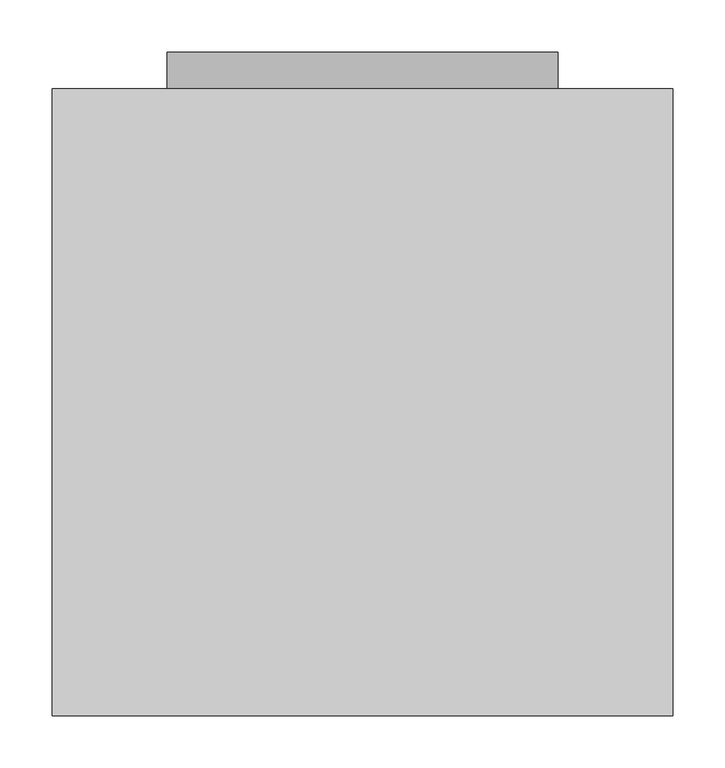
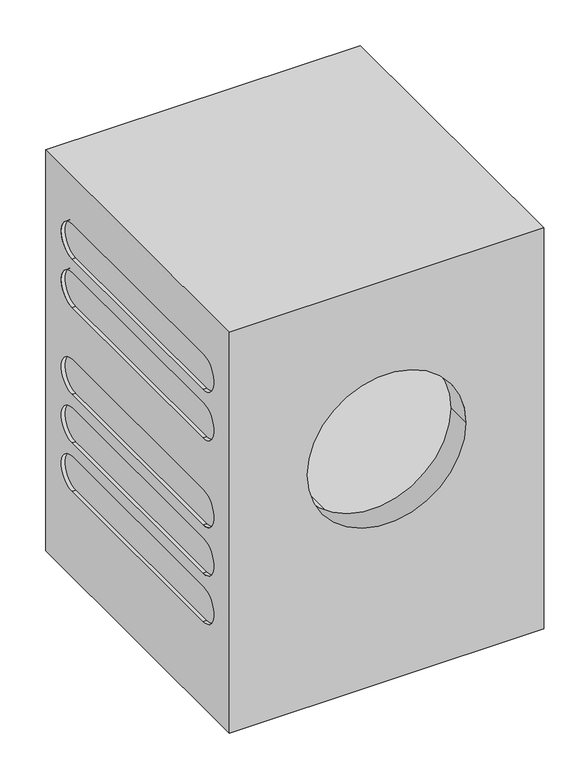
"""IFC4 building model written with IfcOpenShell, lengths in millimetres: proxy geometry, 11736020_S_PWM508DV_LW : 51508252_S_11736020_PWM508DV_LW."""

from ifc_helpers import new_model, si_unit, point, frame, frame_2d, origin, place, context, project, spatial, polyline, circle_curve, trimmed, segment, composite_curve, outline, extrude, source, transform, mapped, element, save
from ifc_brep_helpers import plane_surface, revolved_surface, advanced_brep


def specialty_equipment_96a83835(model_context):
    return source(origin(), model_context, "Body", "SolidModel", [
        advanced_brep(
        [(298.0, -35.0, 816.0), (298.0, -35.0, 13.5), (-298.0, -35.0, 13.5), (-298.0, -35.0, 816.0), (215.0, -35.0, 130.0), (119.0, -35.0, 130.0), (119.0, -35.0, 80.0), (215.0, -35.0, 80.0), (298.0, -637.0, 816.0), (-298.0, -637.0, 816.0), (-298.0, -637.0, 13.5), (298.0, -637.0, 13.5), (150.0, -637.0, 478.0), (-150.0, -637.0, 478.0), (298.0, -552.0, 650.0), (298.0, -552.0, 720.0), (298.0, -122.0, 720.0), (298.0, -122.0, 650.0), (298.0, -552.0, 553.0), (298.0, -552.0, 623.0), (298.0, -122.0, 623.0), (298.0, -122.0, 553.0), (298.0, -552.0, 282.0), (298.0, -552.0, 352.0), (298.0, -122.0, 352.0), (298.0, -122.0, 282.0), (298.0, -552.0, 185.0), (298.0, -552.0, 255.0), (298.0, -122.0, 255.0), (298.0, -122.0, 185.0), (298.0, -552.0, 379.0), (298.0, -552.0, 449.0), (298.0, -122.0, 449.0), (298.0, -122.0, 379.0), (-298.0, -552.0, 720.0), (-298.0, -552.0, 650.0), (-298.0, -122.0, 650.0), (-298.0, -122.0, 720.0), (-298.0, -552.0, 623.0), (-298.0, -552.0, 553.0), (-298.0, -122.0, 553.0), (-298.0, -122.0, 623.0), (-298.0, -552.0, 352.0), (-298.0, -552.0, 282.0), (-298.0, -122.0, 282.0), (-298.0, -122.0, 352.0), (-298.0, -552.0, 255.0), (-298.0, -552.0, 185.0), (-298.0, -122.0, 185.0), (-298.0, -122.0, 255.0), (-298.0, -552.0, 379.0), (-298.0, -122.0, 379.0), (-298.0, -122.0, 449.0), (-298.0, -552.0, 449.0), (-150.0, -589.0, 478.0), (150.0, -589.0, 478.0), (0.0, -150.0, 234.0), (0.0, -150.0, 722.0), (0.0, -589.0, 234.0), (0.0, -589.0, 722.0), (-291.0, -552.0, 720.0), (-291.0, -122.0, 720.0), (-291.0, -122.0, 650.0), (-291.0, -552.0, 650.0), (-291.0, -552.0, 623.0), (-291.0, -122.0, 623.0), (-291.0, -122.0, 553.0), (-291.0, -552.0, 553.0), (-291.0, -552.0, 352.0), (-291.0, -122.0, 352.0), (-291.0, -122.0, 282.0), (-291.0, -552.0, 282.0), (-291.0, -552.0, 255.0), (-291.0, -122.0, 255.0), (-291.0, -122.0, 185.0), (-291.0, -552.0, 185.0), (291.0, -552.0, 720.0), (291.0, -552.0, 650.0), (291.0, -122.0, 650.0), (291.0, -122.0, 720.0), (291.0, -552.0, 623.0), (291.0, -552.0, 553.0), (291.0, -122.0, 553.0), (291.0, -122.0, 623.0), (291.0, -552.0, 352.0), (291.0, -552.0, 282.0), (291.0, -122.0, 282.0), (291.0, -122.0, 352.0), (291.0, -552.0, 255.0), (291.0, -552.0, 185.0), (291.0, -122.0, 185.0), (291.0, -122.0, 255.0), (-291.0, -552.0, 449.0), (-291.0, -122.0, 449.0), (-291.0, -122.0, 379.0), (-291.0, -552.0, 379.0), (291.0, -552.0, 449.0), (291.0, -552.0, 379.0), (291.0, -122.0, 379.0), (291.0, -122.0, 449.0), (119.0, -152.0, 130.0), (215.0, -152.0, 130.0), (215.0, -152.0, 80.0), (119.0, -152.0, 80.0)],
        [
            (0, 1),
            (1, 2),
            (2, 3),
            (3, 0),
            (4, 5),
            (5, 6),
            (6, 7),
            (7, 4),
            (8, 9),
            (9, 10),
            (10, 11),
            (11, 8),
            (12, 13, circle_curve(frame((0.0, -637.0, 478.0), z_axis=(0.0, 1.0, 0.0), x_axis=(-1.0, 0.0, 0.0)), 150.0)),
            (13, 12, circle_curve(frame((0.0, -637.0, 478.0), z_axis=(0.0, 1.0, 0.0), x_axis=(-1.0, 0.0, 0.0)), 150.0)),
            (0, 8),
            (11, 1),
            (14, 15, circle_curve(frame((298.0, -552.0, 685.0), z_axis=(-1.0, 0.0, 0.0), x_axis=(0.0, 1.0, 0.0)), 35.0)),
            (15, 16),
            (16, 17, circle_curve(frame((298.0, -122.0, 685.0), z_axis=(-1.0, 0.0, 0.0), x_axis=(0.0, 1.0, 0.0)), 35.0)),
            (17, 14),
            (18, 19, circle_curve(frame((298.0, -552.0, 588.0), z_axis=(-1.0, 0.0, 0.0), x_axis=(0.0, 1.0, 0.0)), 35.0)),
            (19, 20),
            (20, 21, circle_curve(frame((298.0, -122.0, 588.0), z_axis=(-1.0, 0.0, 0.0), x_axis=(0.0, 1.0, 0.0)), 35.0)),
            (21, 18),
            (22, 23, circle_curve(frame((298.0, -552.0, 317.0), z_axis=(-1.0, 0.0, 0.0), x_axis=(0.0, 1.0, 0.0)), 35.0)),
            (23, 24),
            (24, 25, circle_curve(frame((298.0, -122.0, 317.0), z_axis=(-1.0, 0.0, 0.0), x_axis=(0.0, 1.0, 0.0)), 35.0)),
            (25, 22),
            (26, 27, circle_curve(frame((298.0, -552.0, 220.0), z_axis=(-1.0, 0.0, 0.0), x_axis=(0.0, 1.0, 0.0)), 35.0)),
            (27, 28),
            (28, 29, circle_curve(frame((298.0, -122.0, 220.0), z_axis=(-1.0, 0.0, 0.0), x_axis=(0.0, 1.0, 0.0)), 35.0)),
            (29, 26),
            (30, 31, circle_curve(frame((298.0, -552.0, 414.0), z_axis=(-1.0, 0.0, 0.0), x_axis=(0.0, 1.0, 0.0)), 35.0)),
            (31, 32),
            (32, 33, circle_curve(frame((298.0, -122.0, 414.0), z_axis=(-1.0, 0.0, 0.0), x_axis=(0.0, 1.0, 0.0)), 35.0)),
            (33, 30),
            (10, 2),
            (9, 3),
            (34, 35, circle_curve(frame((-298.0, -552.0, 685.0), z_axis=(1.0, 0.0, 0.0), x_axis=(0.0, 1.0, 0.0)), 35.0)),
            (35, 36),
            (36, 37, circle_curve(frame((-298.0, -122.0, 685.0), z_axis=(1.0, 0.0, 0.0), x_axis=(0.0, 1.0, 0.0)), 35.0)),
            (37, 34),
            (38, 39, circle_curve(frame((-298.0, -552.0, 588.0), z_axis=(1.0, 0.0, 0.0), x_axis=(0.0, 1.0, 0.0)), 35.0)),
            (39, 40),
            (40, 41, circle_curve(frame((-298.0, -122.0, 588.0), z_axis=(1.0, 0.0, 0.0), x_axis=(0.0, 1.0, 0.0)), 35.0)),
            (41, 38),
            (42, 43, circle_curve(frame((-298.0, -552.0, 317.0), z_axis=(1.0, 0.0, 0.0), x_axis=(0.0, 1.0, 0.0)), 35.0)),
            (43, 44),
            (44, 45, circle_curve(frame((-298.0, -122.0, 317.0), z_axis=(1.0, 0.0, 0.0), x_axis=(0.0, 1.0, 0.0)), 35.0)),
            (45, 42),
            (46, 47, circle_curve(frame((-298.0, -552.0, 220.0), z_axis=(1.0, 0.0, 0.0), x_axis=(0.0, 1.0, 0.0)), 35.0)),
            (47, 48),
            (48, 49, circle_curve(frame((-298.0, -122.0, 220.0), z_axis=(1.0, 0.0, 0.0), x_axis=(0.0, 1.0, 0.0)), 35.0)),
            (49, 46),
            (50, 51),
            (51, 52, circle_curve(frame((-298.0, -122.0, 414.0), z_axis=(1.0, 0.0, 0.0), x_axis=(0.0, 1.0, 0.0)), 35.0)),
            (52, 53),
            (53, 50, circle_curve(frame((-298.0, -552.0, 414.0), z_axis=(1.0, 0.0, 0.0), x_axis=(0.0, 1.0, 0.0)), 35.0)),
            (54, 13),
            (12, 55),
            (55, 54, circle_curve(frame((0.0, -589.0, 478.0), z_axis=(0.0, 1.0, 0.0), x_axis=(-1.0, 0.0, 0.0)), 150.0)),
            (54, 55, circle_curve(frame((0.0, -589.0, 478.0), z_axis=(0.0, 1.0, 0.0), x_axis=(-1.0, 0.0, 0.0)), 150.0)),
            (56, 57, circle_curve(frame((0.0, -150.0, 478.0), z_axis=(0.0, -1.0, 0.0), x_axis=(0.0, 0.0, 1.0)), 244.0)),
            (57, 56, circle_curve(frame((0.0, -150.0, 478.0), z_axis=(0.0, -1.0, 0.0), x_axis=(0.0, 0.0, 1.0)), 244.0)),
            (58, 59, circle_curve(frame((0.0, -589.0, 478.0), z_axis=(0.0, 1.0, 0.0), x_axis=(0.0, 0.0, 1.0)), 244.0)),
            (59, 58, circle_curve(frame((0.0, -589.0, 478.0), z_axis=(0.0, 1.0, 0.0), x_axis=(0.0, 0.0, 1.0)), 244.0)),
            (56, 58),
            (59, 57),
            (60, 61),
            (61, 62, circle_curve(frame((-291.0, -122.0, 685.0), z_axis=(-1.0, 0.0, 0.0), x_axis=(0.0, 1.0, 0.0)), 35.0)),
            (62, 63),
            (63, 60, circle_curve(frame((-291.0, -552.0, 685.0), z_axis=(-1.0, 0.0, 0.0), x_axis=(0.0, 1.0, 0.0)), 35.0)),
            (64, 65),
            (65, 66, circle_curve(frame((-291.0, -122.0, 588.0), z_axis=(-1.0, 0.0, 0.0), x_axis=(0.0, 1.0, 0.0)), 35.0)),
            (66, 67),
            (67, 64, circle_curve(frame((-291.0, -552.0, 588.0), z_axis=(-1.0, 0.0, 0.0), x_axis=(0.0, 1.0, 0.0)), 35.0)),
            (68, 69),
            (69, 70, circle_curve(frame((-291.0, -122.0, 317.0), z_axis=(-1.0, 0.0, 0.0), x_axis=(0.0, 1.0, 0.0)), 35.0)),
            (70, 71),
            (71, 68, circle_curve(frame((-291.0, -552.0, 317.0), z_axis=(-1.0, 0.0, 0.0), x_axis=(0.0, 1.0, 0.0)), 35.0)),
            (72, 73),
            (73, 74, circle_curve(frame((-291.0, -122.0, 220.0), z_axis=(-1.0, 0.0, 0.0), x_axis=(0.0, 1.0, 0.0)), 35.0)),
            (74, 75),
            (75, 72, circle_curve(frame((-291.0, -552.0, 220.0), z_axis=(-1.0, 0.0, 0.0), x_axis=(0.0, 1.0, 0.0)), 35.0)),
            (63, 35),
            (34, 60),
            (62, 36),
            (61, 37),
            (67, 39),
            (38, 64),
            (66, 40),
            (65, 41),
            (71, 43),
            (42, 68),
            (70, 44),
            (69, 45),
            (75, 47),
            (46, 72),
            (74, 48),
            (73, 49),
            (76, 77, circle_curve(frame((291.0, -552.0, 685.0), z_axis=(1.0, 0.0, 0.0), x_axis=(0.0, 1.0, 0.0)), 35.0)),
            (77, 78),
            (78, 79, circle_curve(frame((291.0, -122.0, 685.0), z_axis=(1.0, 0.0, 0.0), x_axis=(0.0, 1.0, 0.0)), 35.0)),
            (79, 76),
            (80, 81, circle_curve(frame((291.0, -552.0, 588.0), z_axis=(1.0, 0.0, 0.0), x_axis=(0.0, 1.0, 0.0)), 35.0)),
            (81, 82),
            (82, 83, circle_curve(frame((291.0, -122.0, 588.0), z_axis=(1.0, 0.0, 0.0), x_axis=(0.0, 1.0, 0.0)), 35.0)),
            (83, 80),
            (84, 85, circle_curve(frame((291.0, -552.0, 317.0), z_axis=(1.0, 0.0, 0.0), x_axis=(0.0, 1.0, 0.0)), 35.0)),
            (85, 86),
            (86, 87, circle_curve(frame((291.0, -122.0, 317.0), z_axis=(1.0, 0.0, 0.0), x_axis=(0.0, 1.0, 0.0)), 35.0)),
            (87, 84),
            (88, 89, circle_curve(frame((291.0, -552.0, 220.0), z_axis=(1.0, 0.0, 0.0), x_axis=(0.0, 1.0, 0.0)), 35.0)),
            (89, 90),
            (90, 91, circle_curve(frame((291.0, -122.0, 220.0), z_axis=(1.0, 0.0, 0.0), x_axis=(0.0, 1.0, 0.0)), 35.0)),
            (91, 88),
            (76, 15),
            (14, 77),
            (17, 78),
            (16, 79),
            (80, 19),
            (18, 81),
            (21, 82),
            (20, 83),
            (84, 23),
            (22, 85),
            (25, 86),
            (24, 87),
            (88, 27),
            (26, 89),
            (29, 90),
            (28, 91),
            (92, 93),
            (93, 94, circle_curve(frame((-291.0, -122.0, 414.0), z_axis=(-1.0, 0.0, 0.0), x_axis=(0.0, 1.0, 0.0)), 35.0)),
            (94, 95),
            (95, 92, circle_curve(frame((-291.0, -552.0, 414.0), z_axis=(-1.0, 0.0, 0.0), x_axis=(0.0, 1.0, 0.0)), 35.0)),
            (94, 51),
            (50, 95),
            (92, 53),
            (52, 93),
            (96, 97, circle_curve(frame((291.0, -552.0, 414.0), z_axis=(1.0, 0.0, 0.0), x_axis=(0.0, 1.0, 0.0)), 35.0)),
            (97, 98),
            (98, 99, circle_curve(frame((291.0, -122.0, 414.0), z_axis=(1.0, 0.0, 0.0), x_axis=(0.0, 1.0, 0.0)), 35.0)),
            (99, 96),
            (96, 31),
            (30, 97),
            (33, 98),
            (32, 99),
            (100, 101),
            (101, 102),
            (102, 103),
            (103, 100),
            (100, 5),
            (4, 101),
            (7, 102),
            (6, 103),
        ],
        [
            plane_surface(frame((298.0, -35.0, 816.0), z_axis=(0.0, 1.0, 0.0), x_axis=(0.0, 0.0, -1.0))),
            plane_surface(frame((298.0, -637.0, 816.0), z_axis=(0.0, -1.0, 0.0), x_axis=(0.0, 0.0, 1.0))),
            plane_surface(frame((298.0, -35.0, 816.0), z_axis=(1.0, 0.0, 0.0), x_axis=(0.0, -1.0, 0.0))),
            plane_surface(frame((298.0, -35.0, 13.5), z_axis=(0.0, 0.0, -1.0), x_axis=(0.0, -1.0, 0.0))),
            plane_surface(frame((-298.0, -35.0, 13.5), z_axis=(-1.0, 0.0, 0.0), x_axis=(0.0, -1.0, 0.0))),
            plane_surface(frame((-298.0, -35.0, 816.0), z_axis=(0.0, 0.0, 1.0), x_axis=(0.0, -1.0, 0.0))),
            revolved_surface(polyline([(-150.0, -589.0, 478.0), (-150.0, -637.0, 478.0)]), (0.0, -637.0, 478.0), (0.0, 1.0, 0.0)),
            plane_surface(frame((0.0, -150.0, 722.0), z_axis=(0.0, -1.0, 0.0), x_axis=(1.0, 0.0, 0.0))),
            plane_surface(frame((0.0, -589.0, 722.0), z_axis=(0.0, 1.0, 0.0), x_axis=(-1.0, 0.0, 0.0))),
            revolved_surface(polyline([(0.0, -589.0, 722.0), (0.0, -150.0, 722.0)]), (0.0, -150.0, 478.0), (0.0, -1.0, 0.0)),
            plane_surface(frame((-291.0, -517.0, 685.0), z_axis=(-1.0, 0.0, 0.0), x_axis=(0.0, 0.0, 1.0))),
            revolved_surface(polyline([(-291.0, -517.0, 685.0), (-298.0, -517.0, 685.0)]), (-298.0, -552.0, 685.0), (1.0, 0.0, 0.0)),
            plane_surface(frame((-291.0, -552.0, 650.0), z_axis=(0.0, 0.0, 1.0), x_axis=(-1.0, 0.0, 0.0))),
            revolved_surface(polyline([(-291.0, -87.0, 685.0), (-298.0, -87.0, 685.0)]), (-298.0, -122.0, 685.0), (1.0, 0.0, 0.0)),
            plane_surface(frame((-291.0, -122.0, 720.0), z_axis=(0.0, 0.0, -1.0), x_axis=(-1.0, 0.0, 0.0))),
            revolved_surface(polyline([(-291.0, -517.0, 588.0), (-298.0, -517.0, 588.0)]), (-298.0, -552.0, 588.0), (1.0, 0.0, 0.0)),
            plane_surface(frame((-291.0, -552.0, 553.0), z_axis=(0.0, 0.0, 1.0), x_axis=(-1.0, 0.0, 0.0))),
            revolved_surface(polyline([(-291.0, -87.0, 588.0), (-298.0, -87.0, 588.0)]), (-298.0, -122.0, 588.0), (1.0, 0.0, 0.0)),
            plane_surface(frame((-291.0, -122.0, 623.0), z_axis=(0.0, 0.0, -1.0), x_axis=(-1.0, 0.0, 0.0))),
            revolved_surface(polyline([(-291.0, -517.0, 317.0), (-298.0, -517.0, 317.0)]), (-298.0, -552.0, 317.0), (1.0, 0.0, 0.0)),
            plane_surface(frame((-291.0, -552.0, 282.0), z_axis=(0.0, 0.0, 1.0), x_axis=(-1.0, 0.0, 0.0))),
            revolved_surface(polyline([(-291.0, -87.0, 317.0), (-298.0, -87.0, 317.0)]), (-298.0, -122.0, 317.0), (1.0, 0.0, 0.0)),
            plane_surface(frame((-291.0, -122.0, 352.0), z_axis=(0.0, 0.0, -1.0), x_axis=(-1.0, 0.0, 0.0))),
            revolved_surface(polyline([(-291.0, -517.0, 220.0), (-298.0, -517.0, 220.0)]), (-298.0, -552.0, 220.0), (1.0, 0.0, 0.0)),
            plane_surface(frame((-291.0, -552.0, 185.0), z_axis=(0.0, 0.0, 1.0), x_axis=(-1.0, 0.0, 0.0))),
            revolved_surface(polyline([(-291.0, -87.0, 220.0), (-298.0, -87.0, 220.0)]), (-298.0, -122.0, 220.0), (1.0, 0.0, 0.0)),
            plane_surface(frame((-291.0, -122.0, 255.0), z_axis=(0.0, 0.0, -1.0), x_axis=(-1.0, 0.0, 0.0))),
            plane_surface(frame((291.0, -517.0, 685.0), z_axis=(1.0, 0.0, 0.0), x_axis=(0.0, 0.0, -1.0))),
            revolved_surface(polyline([(298.0, -517.0, 685.0), (291.0, -517.0, 685.0)]), (291.0, -552.0, 685.0), (1.0, 0.0, 0.0)),
            plane_surface(frame((298.0, -552.0, 650.0), z_axis=(0.0, 0.0, 1.0), x_axis=(-1.0, 0.0, 0.0))),
            revolved_surface(polyline([(298.0, -87.0, 685.0), (291.0, -87.0, 685.0)]), (291.0, -122.0, 685.0), (1.0, 0.0, 0.0)),
            plane_surface(frame((298.0, -122.0, 720.0), z_axis=(0.0, 0.0, -1.0), x_axis=(-1.0, 0.0, 0.0))),
            revolved_surface(polyline([(298.0, -517.0, 588.0), (291.0, -517.0, 588.0)]), (298.0, -552.0, 588.0), (1.0, 0.0, 0.0)),
            plane_surface(frame((298.0, -552.0, 553.0), z_axis=(0.0, 0.0, 1.0), x_axis=(-1.0, 0.0, 0.0))),
            revolved_surface(polyline([(298.0, -87.0, 588.0), (291.0, -87.0, 588.0)]), (298.0, -122.0, 588.0), (1.0, 0.0, 0.0)),
            plane_surface(frame((298.0, -122.0, 623.0), z_axis=(0.0, 0.0, -1.0), x_axis=(-1.0, 0.0, 0.0))),
            revolved_surface(polyline([(298.0, -517.0, 317.0), (291.0, -517.0, 317.0)]), (298.0, -552.0, 317.0), (1.0, 0.0, 0.0)),
            plane_surface(frame((298.0, -552.0, 282.0), z_axis=(0.0, 0.0, 1.0), x_axis=(-1.0, 0.0, 0.0))),
            revolved_surface(polyline([(298.0, -87.0, 317.0), (291.0, -87.0, 317.0)]), (298.0, -122.0, 317.0), (1.0, 0.0, 0.0)),
            plane_surface(frame((298.0, -122.0, 352.0), z_axis=(0.0, 0.0, -1.0), x_axis=(-1.0, 0.0, 0.0))),
            revolved_surface(polyline([(298.0, -517.0, 220.0), (291.0, -517.0, 220.0)]), (298.0, -552.0, 220.0), (1.0, 0.0, 0.0)),
            plane_surface(frame((298.0, -552.0, 185.0), z_axis=(0.0, 0.0, 1.0), x_axis=(-1.0, 0.0, 0.0))),
            revolved_surface(polyline([(298.0, -87.0, 220.0), (291.0, -87.0, 220.0)]), (298.0, -122.0, 220.0), (1.0, 0.0, 0.0)),
            plane_surface(frame((298.0, -122.0, 255.0), z_axis=(0.0, 0.0, -1.0), x_axis=(-1.0, 0.0, 0.0))),
            plane_surface(frame((-291.0, -517.0, 414.0), z_axis=(-1.0, 0.0, 0.0), x_axis=(0.0, 0.0, 1.0))),
            plane_surface(frame((-291.0, -552.0, 379.0), z_axis=(0.0, 0.0, 1.0), x_axis=(-1.0, 0.0, 0.0))),
            plane_surface(frame((-291.0, -122.0, 449.0), z_axis=(0.0, 0.0, -1.0), x_axis=(-1.0, 0.0, 0.0))),
            revolved_surface(polyline([(-291.0, -517.0, 414.0), (-298.0, -517.0, 414.0)]), (-298.0, -552.0, 414.0), (1.0, 0.0, 0.0)),
            revolved_surface(polyline([(-291.0, -87.0, 414.0), (-298.0, -87.0, 414.0)]), (-298.0, -122.0, 414.0), (1.0, 0.0, 0.0)),
            plane_surface(frame((291.0, -517.0, 414.0), z_axis=(1.0, 0.0, 0.0), x_axis=(0.0, 0.0, -1.0))),
            revolved_surface(polyline([(298.0, -517.0, 414.0), (291.0, -517.0, 414.0)]), (291.0, -552.0, 414.0), (1.0, 0.0, 0.0)),
            plane_surface(frame((298.0, -552.0, 379.0), z_axis=(0.0, 0.0, 1.0), x_axis=(-1.0, 0.0, 0.0))),
            revolved_surface(polyline([(298.0, -87.0, 414.0), (291.0, -87.0, 414.0)]), (291.0, -122.0, 414.0), (1.0, 0.0, 0.0)),
            plane_surface(frame((298.0, -122.0, 449.0), z_axis=(0.0, 0.0, -1.0), x_axis=(-1.0, 0.0, 0.0))),
            plane_surface(frame((215.0, -152.0, 130.0), z_axis=(0.0, 1.0, 0.0), x_axis=(-1.0, 0.0, 0.0))),
            plane_surface(frame((119.0, -35.0, 130.0), z_axis=(0.0, 0.0, -1.0), x_axis=(0.0, -1.0, 0.0))),
            plane_surface(frame((215.0, -35.0, 130.0), z_axis=(-1.0, 0.0, 0.0), x_axis=(0.0, -1.0, 0.0))),
            plane_surface(frame((215.0, -35.0, 80.0), z_axis=(0.0, 0.0, 1.0), x_axis=(0.0, -1.0, 0.0))),
            plane_surface(frame((119.0, -35.0, 80.0), z_axis=(1.0, 0.0, 0.0), x_axis=(0.0, -1.0, 0.0))),
        ],
        [
            (0, [[1, 2, 3, 4], [5, 6, 7, 8]]),
            (1, [[9, 10, 11, 12], [13, 14]]),
            (2, [[-1, 15, -12, 16], [17, 18, 19, 20], [21, 22, 23, 24], [25, 26, 27, 28], [29, 30, 31, 32], [33, 34, 35, 36]]),
            (3, [[-2, -16, -11, 37]]),
            (4, [[-3, -37, -10, 38], [39, 40, 41, 42], [43, 44, 45, 46], [47, 48, 49, 50], [51, 52, 53, 54], [55, 56, 57, 58]]),
            (5, [[-4, -38, -9, -15]]),
            (6, [[59, -13, 60, 61]]),
            (6, [[-59, 62, -60, -14]]),
            (7, [[63, 64]]),
            (8, [[65, 66], [-61, -62]]),
            (9, [[-63, 67, -66, 68]]),
            (9, [[-64, -68, -65, -67]]),
            (10, [[69, 70, 71, 72]]),
            (10, [[73, 74, 75, 76]]),
            (10, [[77, 78, 79, 80]]),
            (10, [[81, 82, 83, 84]]),
            (11, [[-72, 85, -39, 86]]),
            (12, [[-71, 87, -40, -85]]),
            (13, [[-70, 88, -41, -87]]),
            (14, [[-69, -86, -42, -88]]),
            (15, [[-76, 89, -43, 90]]),
            (16, [[-75, 91, -44, -89]]),
            (17, [[-74, 92, -45, -91]]),
            (18, [[-73, -90, -46, -92]]),
            (19, [[-80, 93, -47, 94]]),
            (20, [[-79, 95, -48, -93]]),
            (21, [[-78, 96, -49, -95]]),
            (22, [[-77, -94, -50, -96]]),
            (23, [[-84, 97, -51, 98]]),
            (24, [[-83, 99, -52, -97]]),
            (25, [[-82, 100, -53, -99]]),
            (26, [[-81, -98, -54, -100]]),
            (27, [[101, 102, 103, 104]]),
            (27, [[105, 106, 107, 108]]),
            (27, [[109, 110, 111, 112]]),
            (27, [[113, 114, 115, 116]]),
            (28, [[-101, 117, -17, 118]]),
            (29, [[-102, -118, -20, 119]]),
            (30, [[-103, -119, -19, 120]]),
            (31, [[-104, -120, -18, -117]]),
            (32, [[-105, 121, -21, 122]]),
            (33, [[-106, -122, -24, 123]]),
            (34, [[-107, -123, -23, 124]]),
            (35, [[-108, -124, -22, -121]]),
            (36, [[-109, 125, -25, 126]]),
            (37, [[-110, -126, -28, 127]]),
            (38, [[-111, -127, -27, 128]]),
            (39, [[-112, -128, -26, -125]]),
            (40, [[-113, 129, -29, 130]]),
            (41, [[-114, -130, -32, 131]]),
            (42, [[-115, -131, -31, 132]]),
            (43, [[-116, -132, -30, -129]]),
            (44, [[133, 134, 135, 136]]),
            (45, [[-135, 137, -55, 138]]),
            (46, [[-133, 139, -57, 140]]),
            (47, [[-136, -138, -58, -139]]),
            (48, [[-134, -140, -56, -137]]),
            (49, [[141, 142, 143, 144]]),
            (50, [[-141, 145, -33, 146]]),
            (51, [[-142, -146, -36, 147]]),
            (52, [[-143, -147, -35, 148]]),
            (53, [[-144, -148, -34, -145]]),
            (54, [[149, 150, 151, 152]]),
            (55, [[-149, 153, -5, 154]]),
            (56, [[-150, -154, -8, 155]]),
            (57, [[-151, -155, -7, 156]]),
            (58, [[-152, -156, -6, -153]]),
        ],
    ),
        extrude(outline(composite_curve([segment(trimmed(circle_curve(frame_2d((478.0, 0.0)), 188.0), [point((452.0, 186.1934478))], [point((452.0, -186.1934478))], False, "CARTESIAN"), True, "CONTINUOUS"), segment(polyline([(452.0, -186.1934478), (124.0, -72.7255113)]), True, "CONTINUOUS"), segment(trimmed(circle_curve(frame_2d((168.0, 0.0)), 85.0), [point((124.0, -72.7255113))], [point((124.0, 72.7255113))], False, "CARTESIAN"), True, "CONTINUOUS"), segment(polyline([(124.0, 72.7255113), (452.0, 186.1934478)]), True, "CONTINUOUS")], self_intersect=False)), frame((0.0, -35.0, 0.0), z_axis=(0.0, 1.0, 0.0), x_axis=(0.0, 0.0, 1.0)), (0.0, 0.0, 1.0), 35.0),
    ])


if __name__ == "__main__":
    model = new_model("IFC4")
    model_context = context("Model", 3, world=origin())
    ifc_project = project(units=[si_unit("LENGTHUNIT", "METRE", prefix="MILLI")], contexts=[model_context])
    site = spatial("IfcSite", under=ifc_project)
    building = spatial("IfcBuilding", under=site)
    placement = place(None, origin())
    specialty_equipment_shape = specialty_equipment_96a83835(model_context)
    element("IfcBuildingElementProxy", 1, Name="11736020_S_PWM508DV_LW : 51508252_S_11736020_PWM508DV_LW", ObjectType="11736020_S_PWM508DV_LW : 51508252_S_11736020_PWM508DV_LW", at=placement, inside=building, context=model_context, shape_type="MappedRepresentation", body=[
        mapped(specialty_equipment_shape, transform((0.0, 0.0, 0.0), x_axis=(1.0, 0.0, 0.0), y_axis=(0.0, 1.0, 0.0), z_axis=(0.0, 0.0, 1.0))),
    ])
    save(model, "model.ifc")
